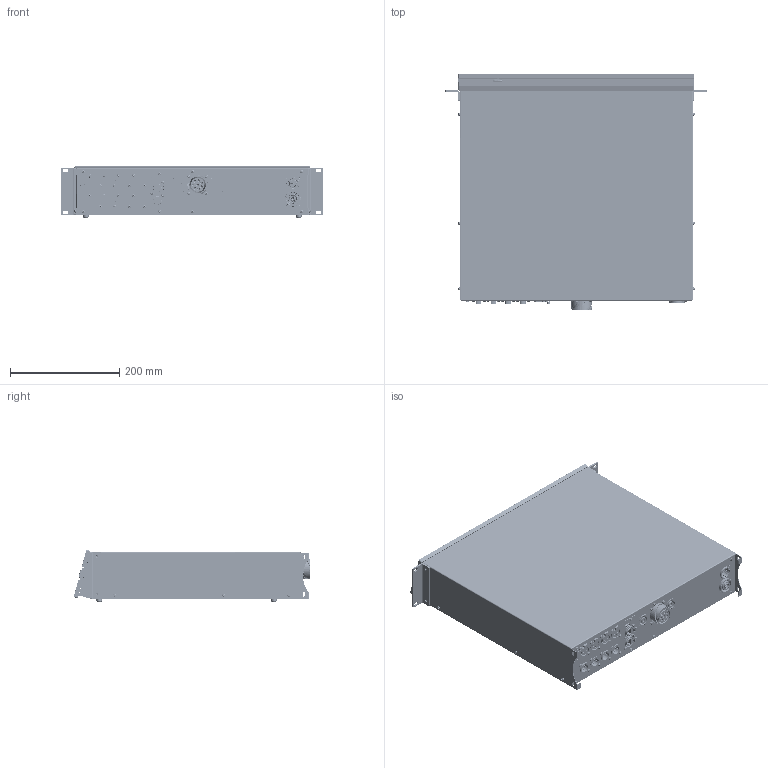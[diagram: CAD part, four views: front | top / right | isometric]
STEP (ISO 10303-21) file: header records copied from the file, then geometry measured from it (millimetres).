
FILE_DESCRIPTION(/* description */ (''),/* implementation_level */ '2;1');
FILE_NAME(/* name */ 'Kommander-KA104LIVE',/* time_stamp */ '2026-03-16T14:19:15+01:00',/* author */ (''),/* organization */ (''),/* preprocessor_version */ 'ST-DEVELOPER v19.2',/* originating_system */ 'Rhino 8.24',/* authorisation */ '');
FILE_SCHEMA (('CONFIG_CONTROL_DESIGN'));
Products named in the file (16): Document; BRD290000; VTA03X10RTIN1_Tapping Screw ISO 14585 - ST2.9 x 9.5-C-N; MCP139A16_01; PWRCONNTFMTRUE1; VTA03X10RTIN1_Tapping Screw ISO 14585 - ST2.9 x 9.5-C-C; VTM03X10STIN0_ISO 14581 M3x10x10-N; VTM03X12BTIN0_ISO 14583 - M3 x 12 x 11 - 4.8-N; VTA 2.9X13 STINO_ISO 14586 - ST2.9 x 13-C-N; hexalobular socket pan head_iso_ISO 14583 - M3 x 6 x 5 - 4.8-N; MCP145A06_01_MCP147A02ABS_03; MMFTT04X05; MCP145A05SAT_03; VTM04X10STIN0; MCP145A02_04; MCP145A04_01
Bounding box: 478.5 x 433.49 x 96 mm (x, y, z)
Volume: 890905.9 mm3; surface area: 1281044 mm2
Topology: 109 solids, 226 shells, 15702 faces, 44757 edges, 29456 vertices
Faces by surface type: plane 7462, cylinder 6384, bspline 1856
Entity records: 549429 total; most frequent: CARTESIAN_POINT 209836, ORIENTED_EDGE 81646, EDGE_CURVE 41315, DIRECTION 39523, VERTEX_POINT 27577, B_SPLINE_CURVE_WITH_KNOTS 27430, AXIS2_PLACEMENT_3D 26169, EDGE_LOOP 16740
